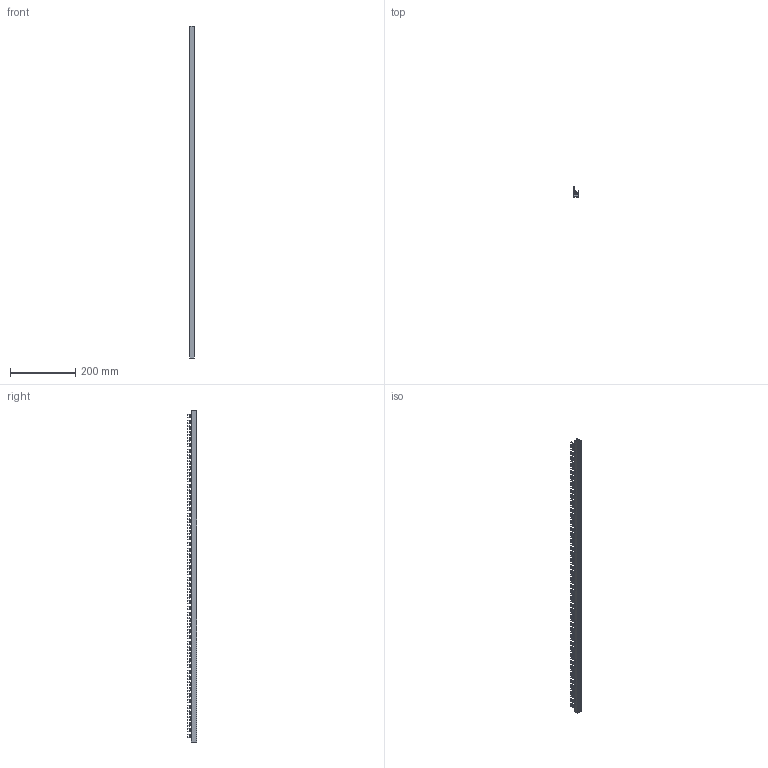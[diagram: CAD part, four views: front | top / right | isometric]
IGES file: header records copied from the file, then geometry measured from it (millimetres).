
Start section: SolidWorks IGES file using analytic representation for surfaces
Global section: file name: U:\14_RD\05_Technical_office\04_Office\Hrdinova\3D modely - IGES\Minia\G2L-1000-16.IGS; native system: SolidWorks 2011; preprocessor: SolidWorks 2011; author: adhrja3; date: 170615.074228; units: millimetre
Bounding box: 14.9 x 29 x 1016 mm (x, y, z)
Surface area: 255227.3 mm2 (no closed solid volume)
Topology: 0 solids, 0 shells, 1631 faces, 17214 edges, 17214 vertices
Faces by surface type: revolution 909, bspline 722
